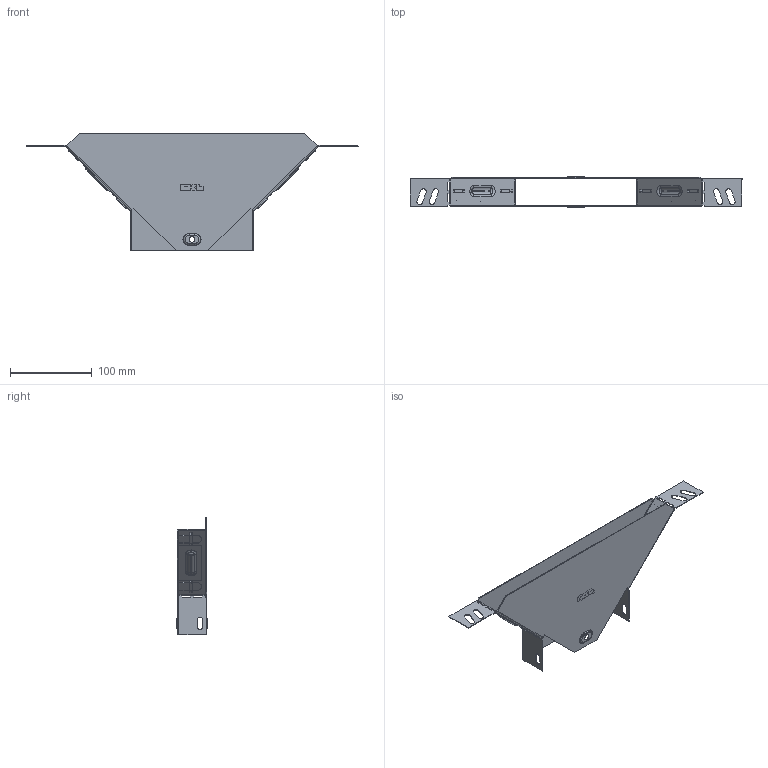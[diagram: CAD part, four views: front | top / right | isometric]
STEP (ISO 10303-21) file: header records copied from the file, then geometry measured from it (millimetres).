
FILE_DESCRIPTION (( 'STEP AP214' ), '1' );
FILE_NAME ('tn3515008_捘.STEP', '2019-06-10T07:58:36', ( '砐錪賧瘔蠈錪 Windows' ), ( '' ), 'SwSTEP 2.0', 'SolidWorks 2018', '' );
FILE_SCHEMA (( 'AUTOMOTIVE_DESIGN' ));
Length unit declared in the file: millimetre
Products named in the file (1): tn3515008_捘
Bounding box: 406.02 x 38.8 x 144 mm (x, y, z)
Volume: 56758.7 mm3; surface area: 144466.6 mm2
Topology: 2 solids, 2 shells, 548 faces, 1504 edges, 960 vertices
Faces by surface type: plane 328, cylinder 154, torus 48, bspline 18
Entity records: 18195 total; most frequent: CARTESIAN_POINT 3971, ORIENTED_EDGE 3008, DIRECTION 2910, EDGE_CURVE 1504, VECTOR 1088, LINE 1088, VERTEX_POINT 960, AXIS2_PLACEMENT_3D 911
